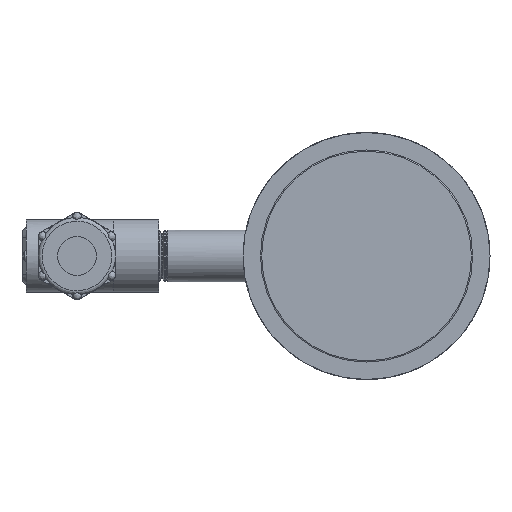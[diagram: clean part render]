
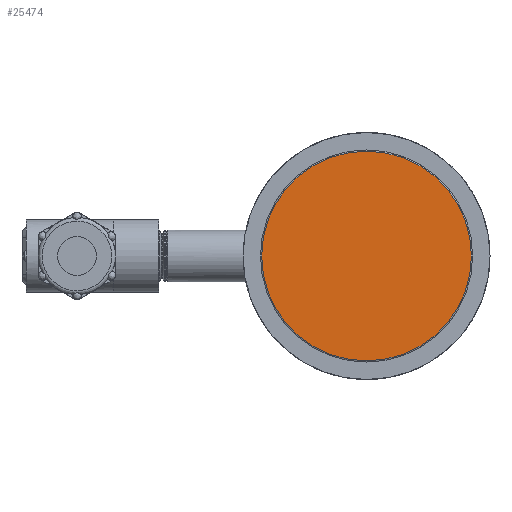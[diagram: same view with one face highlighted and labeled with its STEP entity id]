
A CAD part, left-side view. The second image highlights one B-rep face of the part: STEP entity #25474.
In plain terms, the highlighted planar face has unit normal (-1, 0, 0).
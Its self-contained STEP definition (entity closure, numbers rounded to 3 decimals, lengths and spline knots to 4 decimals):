
#5252 = CARTESIAN_POINT ( 'NONE',  ( 0., 0., 0. ) ) ;
#13199 = VERTEX_POINT ( 'NONE', #51287 ) ;
#13613 = EDGE_LOOP ( 'NONE', ( #23265 ) ) ;
#15387 = DIRECTION ( 'NONE',  ( 0., 0., -1. ) ) ;
#18053 = AXIS2_PLACEMENT_3D ( 'NONE', #44766, #49678, #35007 ) ;
#21677 = PLANE ( 'NONE',  #31447 ) ;
#23265 = ORIENTED_EDGE ( 'NONE', *, *, #55016, .T. ) ;
#23592 = CIRCLE ( 'NONE', #18053, 1.6985 ) ;
#25474 = ADVANCED_FACE ( 'NONE', ( #59074 ), #21677, .F. ) ;
#26240 = DIRECTION ( 'NONE',  ( 1., 0., 0. ) ) ;
#31447 = AXIS2_PLACEMENT_3D ( 'NONE', #5252, #26240, #15387 ) ;
#35007 = DIRECTION ( 'NONE',  ( 0., 0., 1. ) ) ;
#44766 = CARTESIAN_POINT ( 'NONE',  ( 0., 0., 0. ) ) ;
#49678 = DIRECTION ( 'NONE',  ( -1., 0., 0. ) ) ;
#51287 = CARTESIAN_POINT ( 'NONE',  ( 0., 0., 1.6985 ) ) ;
#55016 = EDGE_CURVE ( 'NONE', #13199, #13199, #23592, .T. ) ;
#59074 = FACE_OUTER_BOUND ( 'NONE', #13613, .T. ) ;
